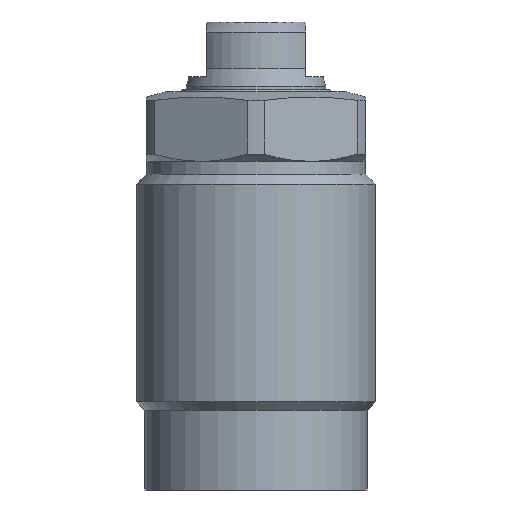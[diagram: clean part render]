
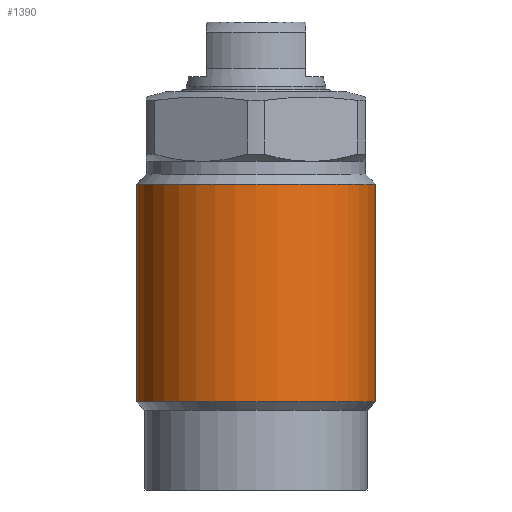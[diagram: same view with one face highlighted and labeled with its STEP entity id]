
A CAD part, front view. The second image highlights one B-rep face of the part: STEP entity #1390.
In plain terms, the highlighted cylindrical face has radius 12 mm (diameter 24 mm), a partial arc.
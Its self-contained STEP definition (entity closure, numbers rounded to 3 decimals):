
#1327=CARTESIAN_POINT('',(-12.0,0.0,-31.15));
#1328=VERTEX_POINT('',#1327);
#1336=CARTESIAN_POINT('',(12.0,0.0,-31.15));
#1337=VERTEX_POINT('',#1336);
#1344=CARTESIAN_POINT('',(0.0,0.0,-31.15));
#1345=DIRECTION('',(0.0,0.0,1.0));
#1346=DIRECTION('',(1.0,0.0,-0.0));
#1347=AXIS2_PLACEMENT_3D('',#1344,#1345,#1346);
#1348=CIRCLE('',#1347,12.0);
#1349=EDGE_CURVE('no 2142',#1328,#1337,#1348,.T.);
#1359=CARTESIAN_POINT('',(-12.,0.0,-9.3));
#1360=VERTEX_POINT('',#1359);
#1361=CARTESIAN_POINT('',(-12.,0.0,-31.15));
#1362=DIRECTION('',(0.,-0.0,1.0));
#1363=VECTOR('',#1362,1.0);
#1364=LINE('',#1361,#1363);
#1365=EDGE_CURVE('no 2152',#1328,#1360,#1364,.T.);
#1366=ORIENTED_EDGE('',*,*,#1365,.F.);
#1367=ORIENTED_EDGE('',*,*,#1349,.T.);
#1368=CARTESIAN_POINT('',(12.,0.0,-9.3));
#1369=VERTEX_POINT('',#1368);
#1370=CARTESIAN_POINT('',(12.,0.0,-31.15));
#1371=DIRECTION('',(0.,0.0,1.0));
#1372=VECTOR('',#1371,1.0);
#1373=LINE('',#1370,#1372);
#1374=EDGE_CURVE('no 2160',#1337,#1369,#1373,.T.);
#1375=ORIENTED_EDGE('',*,*,#1374,.T.);
#1376=CARTESIAN_POINT('',(0.0,0.0,-9.3));
#1377=DIRECTION('',(0.0,0.0,1.0));
#1378=DIRECTION('',(1.0,0.0,-0.0));
#1379=AXIS2_PLACEMENT_3D('',#1376,#1377,#1378);
#1380=CIRCLE('',#1379,12.);
#1381=EDGE_CURVE('no 2164',#1360,#1369,#1380,.T.);
#1382=ORIENTED_EDGE('',*,*,#1381,.F.);
#1383=EDGE_LOOP('',(#1366,#1367,#1375,#1382));
#1384=FACE_OUTER_BOUND('',#1383,.T.);
#1385=CARTESIAN_POINT('',(0.0,0.0,4.2));
#1386=DIRECTION('',(0.0,0.0,1.0));
#1387=DIRECTION('',(0.0,1.0,-0.0));
#1388=AXIS2_PLACEMENT_3D('',#1385,#1386,#1387);
#1389=CYLINDRICAL_SURFACE('',#1388,12.);
#1390=ADVANCED_FACE('no 2145',(#1384),#1389,.T.);
